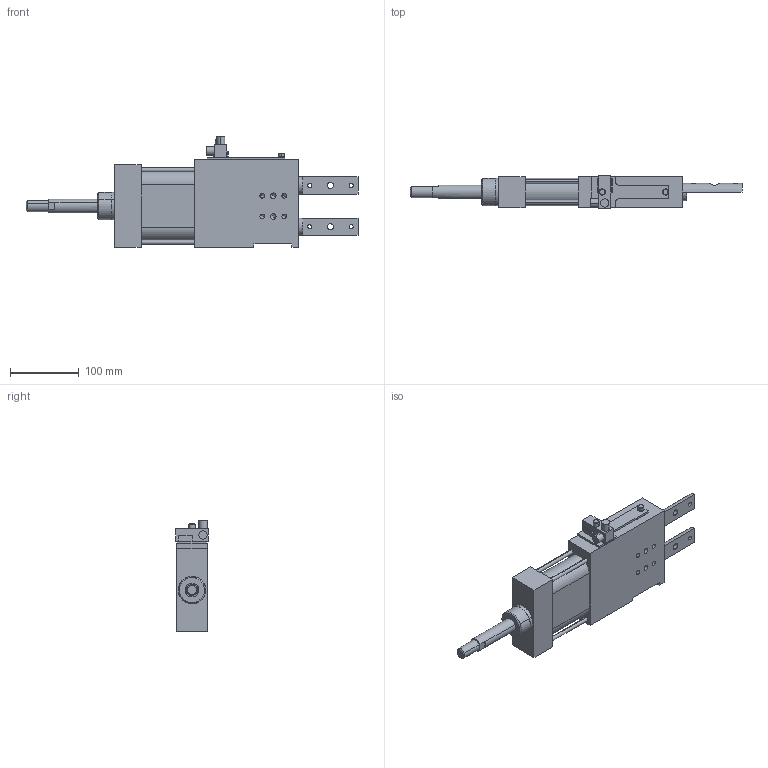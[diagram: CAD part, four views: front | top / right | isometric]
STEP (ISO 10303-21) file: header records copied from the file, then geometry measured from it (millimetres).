
FILE_DESCRIPTION(('CATIA V5 STEP Exchange'),'2;1');
FILE_NAME('G:\Konstruktion\Modelle\Step\SZKD_63_5_Z_A23_T12_TUENKERS.stp','2010-12-14T08:45:03+00:00',('none'),('none'),'CATIA Version 5 Release 19 SP 3 (IN-10)','CATIA V5 STEP AP214','none');
FILE_SCHEMA(('AUTOMOTIVE_DESIGN { 1 0 10303 214 1 1 1 1 }'));
Length unit declared in the file: millimetre
Products named in the file (1): SZKD_63_5_Z_A23_T12_TUENKERS
Bounding box: 482 x 47 x 161.1 mm (x, y, z)
Volume: 1335925.4 mm3; surface area: 187931.1 mm2
Topology: 12 solids, 23 shells, 255 faces, 689 edges, 471 vertices
Faces by surface type: plane 105, cylinder 96, cone 46, torus 8
Entity records: 8618 total; most frequent: CARTESIAN_POINT 1870, ORIENTED_EDGE 1197, DIRECTION 874, EDGE_CURVE 653, VERTEX_POINT 465, AXIS2_PLACEMENT_3D 417, EDGE_LOOP 304, VECTOR 284
